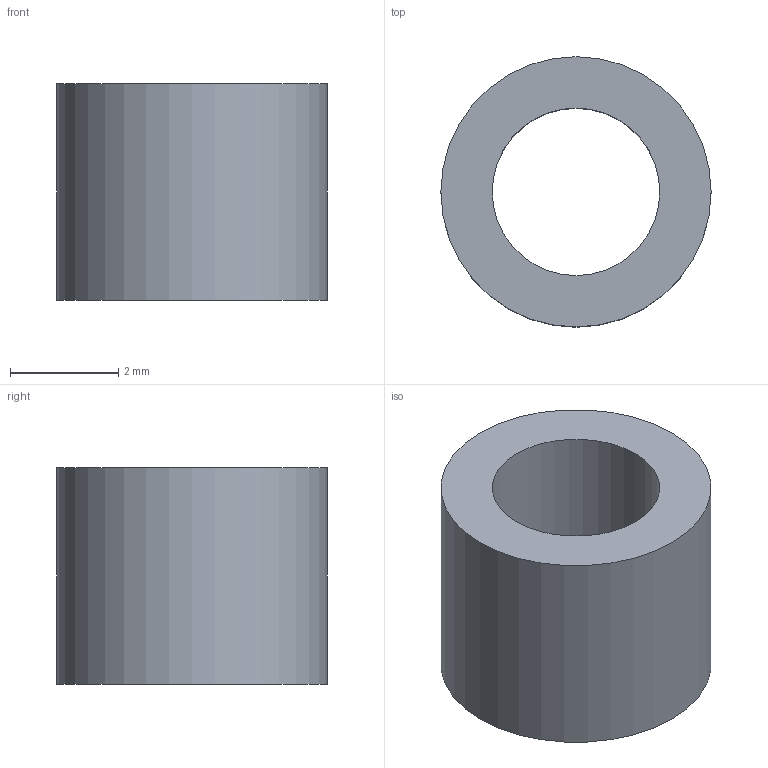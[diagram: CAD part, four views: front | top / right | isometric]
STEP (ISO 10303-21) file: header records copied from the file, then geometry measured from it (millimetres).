
FILE_DESCRIPTION(('Open CASCADE Model'),'2;1');
FILE_NAME('Open CASCADE Shape Model','2026-10-01T12:35:23',('Author'),( 'Open CASCADE'),'Open CASCADE STEP processor 7.8','Open CASCADE 7.8' ,'Unknown');
FILE_SCHEMA(('AUTOMOTIVE_DESIGN { 1 0 10303 214 1 1 1 1 }'));
Length unit declared in the file: millimetre
Products named in the file (2): H92_USB_insert_1; H92_USB_insert_1_solid
Assembly tree (1 placements, depth 2):
  H92_USB_insert_1
    H92_USB_insert_1_solid
Bounding box: 5 x 5 x 4 mm (x, y, z)
Volume: 48.3 mm3; surface area: 126 mm2
Topology: 1 solids, 1 shells, 4 faces, 6 edges, 4 vertices
Faces by surface type: cylinder 2, plane 2
Full cylindrical faces by diameter (mm): 3.1 x1, 5 x1
Entity records: 213 total; most frequent: DIRECTION 34, CARTESIAN_POINT 28, ORIENTED_EDGE 12, PCURVE 12, DEFINITIONAL_REPRESENTATION 12, AXIS2_PLACEMENT_3D 10, LINE 10, VECTOR 10
